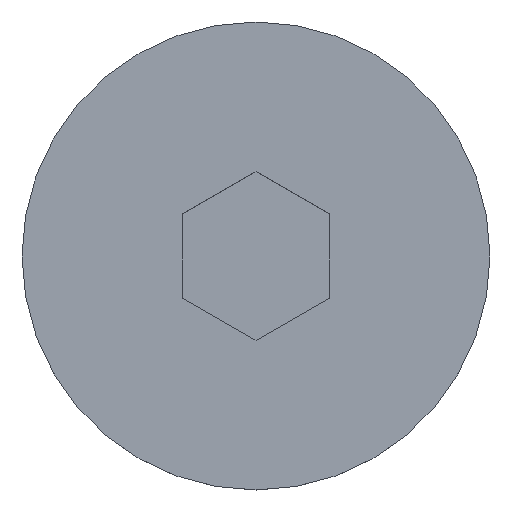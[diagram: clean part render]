
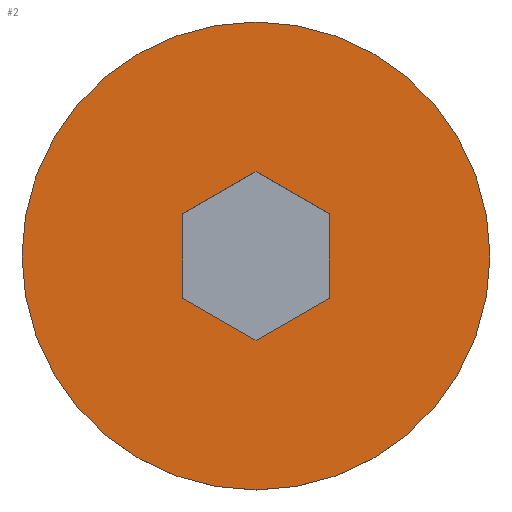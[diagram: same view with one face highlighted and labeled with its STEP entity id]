
A CAD part, top view. The second image highlights one B-rep face of the part: STEP entity #2.
In plain terms, the highlighted planar face has unit normal (0, 0, 1).
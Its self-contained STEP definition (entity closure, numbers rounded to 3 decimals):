
#2 = ADVANCED_FACE ( 'NONE', ( #205, #259 ), #250, .T. ) ;
#3 = VERTEX_POINT ( 'NONE', #222 ) ;
#19 = VECTOR ( 'NONE', #190, 1000. ) ;
#36 = DIRECTION ( 'NONE',  ( 0., 0., -1. ) ) ;
#38 = ORIENTED_EDGE ( 'NONE', *, *, #278, .F. ) ;
#41 = DIRECTION ( 'NONE',  ( 1., 0., 0. ) ) ;
#46 = ORIENTED_EDGE ( 'NONE', *, *, #353, .F. ) ;
#47 = DIRECTION ( 'NONE',  ( 0., 1., 0. ) ) ;
#48 = CARTESIAN_POINT ( 'NONE',  ( -3., -1.732, 5.22 ) ) ;
#54 = AXIS2_PLACEMENT_3D ( 'NONE', #184, #382, #41 ) ;
#55 = CARTESIAN_POINT ( 'NONE',  ( -3., 1.732, 5.22 ) ) ;
#58 = LINE ( 'NONE', #406, #158 ) ;
#60 = EDGE_CURVE ( 'NONE', #431, #199, #444, .T. ) ;
#70 = ORIENTED_EDGE ( 'NONE', *, *, #415, .F. ) ;
#71 = CARTESIAN_POINT ( 'NONE',  ( -3., -1.732, 5.22 ) ) ;
#80 = VERTEX_POINT ( 'NONE', #252 ) ;
#81 = CARTESIAN_POINT ( 'NONE',  ( 0., 0., 5.22 ) ) ;
#87 = VECTOR ( 'NONE', #47, 1000. ) ;
#108 = EDGE_CURVE ( 'NONE', #3, #232, #181, .T. ) ;
#122 = EDGE_CURVE ( 'NONE', #232, #80, #128, .T. ) ;
#123 = EDGE_CURVE ( 'NONE', #199, #431, #399, .T. ) ;
#127 = ORIENTED_EDGE ( 'NONE', *, *, #60, .F. ) ;
#128 = LINE ( 'NONE', #261, #87 ) ;
#132 = DIRECTION ( 'NONE',  ( 0., -1., 0. ) ) ;
#133 = VERTEX_POINT ( 'NONE', #55 ) ;
#148 = CARTESIAN_POINT ( 'NONE',  ( 0., -3.464, 5.22 ) ) ;
#153 = AXIS2_PLACEMENT_3D ( 'NONE', #401, #258, #302 ) ;
#158 = VECTOR ( 'NONE', #169, 1000. ) ;
#159 = VERTEX_POINT ( 'NONE', #48 ) ;
#169 = DIRECTION ( 'NONE',  ( -0.866, -0.5, 0. ) ) ;
#179 = LINE ( 'NONE', #248, #279 ) ;
#181 = LINE ( 'NONE', #148, #19 ) ;
#184 = CARTESIAN_POINT ( 'NONE',  ( -9.61, 0., 5.22 ) ) ;
#189 = EDGE_LOOP ( 'NONE', ( #70, #321, #300, #268, #46, #38 ) ) ;
#190 = DIRECTION ( 'NONE',  ( 0.866, 0.5, 0. ) ) ;
#199 = VERTEX_POINT ( 'NONE', #363 ) ;
#201 = AXIS2_PLACEMENT_3D ( 'NONE', #81, #36, #291 ) ;
#205 = FACE_BOUND ( 'NONE', #189, .T. ) ;
#214 = CARTESIAN_POINT ( 'NONE',  ( 9.61, 0., 5.22 ) ) ;
#222 = CARTESIAN_POINT ( 'NONE',  ( 0., -3.464, 5.22 ) ) ;
#232 = VERTEX_POINT ( 'NONE', #366 ) ;
#246 = VECTOR ( 'NONE', #277, 1000. ) ;
#248 = CARTESIAN_POINT ( 'NONE',  ( -3., 1.732, 5.22 ) ) ;
#250 = PLANE ( 'NONE',  #54 ) ;
#252 = CARTESIAN_POINT ( 'NONE',  ( 3., 1.732, 5.22 ) ) ;
#255 = EDGE_LOOP ( 'NONE', ( #432, #127 ) ) ;
#258 = DIRECTION ( 'NONE',  ( 0., 0., -1. ) ) ;
#259 = FACE_OUTER_BOUND ( 'NONE', #255, .T. ) ;
#261 = CARTESIAN_POINT ( 'NONE',  ( 3., -1.732, 5.22 ) ) ;
#268 = ORIENTED_EDGE ( 'NONE', *, *, #374, .F. ) ;
#277 = DIRECTION ( 'NONE',  ( -0.866, 0.5, 0. ) ) ;
#278 = EDGE_CURVE ( 'NONE', #443, #133, #58, .T. ) ;
#279 = VECTOR ( 'NONE', #132, 1000. ) ;
#291 = DIRECTION ( 'NONE',  ( -1., 0., 0. ) ) ;
#292 = LINE ( 'NONE', #381, #246 ) ;
#300 = ORIENTED_EDGE ( 'NONE', *, *, #108, .F. ) ;
#302 = DIRECTION ( 'NONE',  ( -1., 0., 0. ) ) ;
#313 = DIRECTION ( 'NONE',  ( 0.866, -0.5, 0. ) ) ;
#321 = ORIENTED_EDGE ( 'NONE', *, *, #122, .F. ) ;
#333 = VECTOR ( 'NONE', #313, 1000. ) ;
#353 = EDGE_CURVE ( 'NONE', #133, #159, #179, .T. ) ;
#362 = LINE ( 'NONE', #71, #333 ) ;
#363 = CARTESIAN_POINT ( 'NONE',  ( -9.61, 0., 5.22 ) ) ;
#366 = CARTESIAN_POINT ( 'NONE',  ( 3., -1.732, 5.22 ) ) ;
#374 = EDGE_CURVE ( 'NONE', #159, #3, #362, .T. ) ;
#378 = CARTESIAN_POINT ( 'NONE',  ( 0., 3.464, 5.22 ) ) ;
#381 = CARTESIAN_POINT ( 'NONE',  ( 3., 1.732, 5.22 ) ) ;
#382 = DIRECTION ( 'NONE',  ( 0., 0., 1. ) ) ;
#399 = CIRCLE ( 'NONE', #153, 9.61 ) ;
#401 = CARTESIAN_POINT ( 'NONE',  ( 0., 0., 5.22 ) ) ;
#406 = CARTESIAN_POINT ( 'NONE',  ( 0., 3.464, 5.22 ) ) ;
#415 = EDGE_CURVE ( 'NONE', #80, #443, #292, .T. ) ;
#431 = VERTEX_POINT ( 'NONE', #214 ) ;
#432 = ORIENTED_EDGE ( 'NONE', *, *, #123, .F. ) ;
#443 = VERTEX_POINT ( 'NONE', #378 ) ;
#444 = CIRCLE ( 'NONE', #201, 9.61 ) ;
